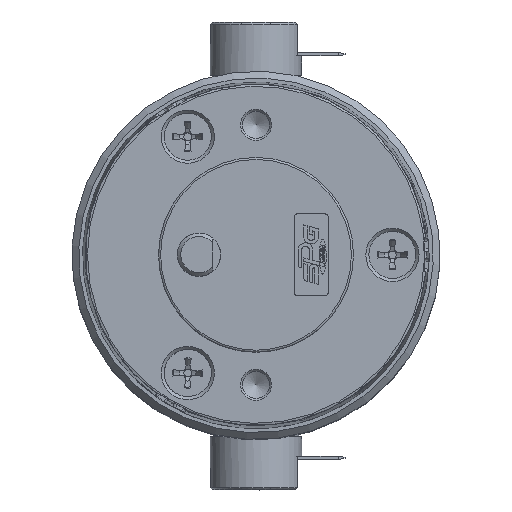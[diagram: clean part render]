
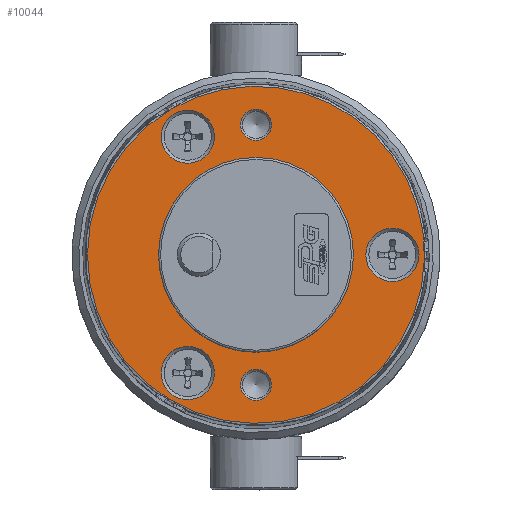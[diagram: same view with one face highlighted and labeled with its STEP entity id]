
A CAD part, top view. The second image highlights one B-rep face of the part: STEP entity #10044.
In plain terms, the highlighted planar face has unit normal (0, 0, 1).
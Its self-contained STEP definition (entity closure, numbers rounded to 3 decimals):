
#9958=CARTESIAN_POINT('',(0.,16.769,145.254));
#9959=VERTEX_POINT('',#9958);
#9960=CARTESIAN_POINT('',(0.,19.05,145.254));
#9961=DIRECTION('',(0.0,0.0,1.0));
#9962=DIRECTION('',(0.0,1.0,0.0));
#9963=AXIS2_PLACEMENT_3D('',#9960,#9961,#9962);
#9964=CIRCLE('',#9963,2.281);
#9965=EDGE_CURVE('',#9959,#9959,#9964,.T.);
#9970=CARTESIAN_POINT('',(0.,0.,145.254));
#9971=DIRECTION('',(0.0,0.0,-1.0));
#9972=DIRECTION('',(1.0,0.0,0.0));
#9973=AXIS2_PLACEMENT_3D('',#9970,#9971,#9972);
#9974=PLANE('',#9973);
#9975=CARTESIAN_POINT('',(-12.352,21.394,145.254));
#9976=VERTEX_POINT('',#9975);
#9977=CARTESIAN_POINT('',(0.,0.,145.254));
#9978=DIRECTION('',(0.,0.,-1.0));
#9979=DIRECTION('',(0.5,-0.866,0.));
#9980=AXIS2_PLACEMENT_3D('',#9977,#9978,#9979);
#9981=CIRCLE('',#9980,24.704);
#9982=EDGE_CURVE('',#9976,#9976,#9981,.T.);
#9983=ORIENTED_EDGE('',*,*,#9982,.F.);
#9984=EDGE_LOOP('',(#9983));
#9985=FACE_OUTER_BOUND('',#9984,.T.);
#9986=CARTESIAN_POINT('',(0.,-21.331,145.254));
#9987=VERTEX_POINT('',#9986);
#9988=CARTESIAN_POINT('',(0.,-19.05,145.254));
#9989=DIRECTION('',(0.0,0.0,1.0));
#9990=DIRECTION('',(0.0,1.0,0.0));
#9991=AXIS2_PLACEMENT_3D('',#9988,#9989,#9990);
#9992=CIRCLE('',#9991,2.281);
#9993=EDGE_CURVE('',#9987,#9987,#9992,.T.);
#9994=ORIENTED_EDGE('',*,*,#9993,.F.);
#9995=EDGE_LOOP('',(#9994));
#9996=FACE_BOUND('',#9995,.T.);
#9997=CARTESIAN_POINT('',(0.,-14.288,145.254));
#9998=VERTEX_POINT('',#9997);
#9999=CARTESIAN_POINT('',(0.,0.,145.254));
#10000=DIRECTION('',(0.0,0.0,-1.0));
#10001=DIRECTION('',(0.0,1.0,0.0));
#10002=AXIS2_PLACEMENT_3D('',#9999,#10000,#10001);
#10003=CIRCLE('',#10002,14.287);
#10004=EDGE_CURVE('',#9998,#9998,#10003,.T.);
#10005=ORIENTED_EDGE('',*,*,#10004,.T.);
#10006=EDGE_LOOP('',(#10005));
#10007=FACE_BOUND('',#10006,.T.);
#10008=CARTESIAN_POINT('',(23.9,0.,145.254));
#10009=VERTEX_POINT('',#10008);
#10010=CARTESIAN_POINT('',(20.,0.,145.254));
#10011=DIRECTION('',(0.0,0.0,-1.0));
#10012=DIRECTION('',(1.0,0.0,0.0));
#10013=AXIS2_PLACEMENT_3D('',#10010,#10011,#10012);
#10014=CIRCLE('',#10013,3.9);
#10015=EDGE_CURVE('',#10009,#10009,#10014,.T.);
#10016=ORIENTED_EDGE('',*,*,#10015,.T.);
#10017=EDGE_LOOP('',(#10016));
#10018=FACE_BOUND('',#10017,.T.);
#10019=CARTESIAN_POINT('',(-11.95,20.698,145.254));
#10020=VERTEX_POINT('',#10019);
#10021=CARTESIAN_POINT('',(-10.,17.321,145.254));
#10022=DIRECTION('',(0.,0.,-1.0));
#10023=DIRECTION('',(-0.5,0.866,0.));
#10024=AXIS2_PLACEMENT_3D('',#10021,#10022,#10023);
#10025=CIRCLE('',#10024,3.9);
#10026=EDGE_CURVE('',#10020,#10020,#10025,.T.);
#10027=ORIENTED_EDGE('',*,*,#10026,.T.);
#10028=EDGE_LOOP('',(#10027));
#10029=FACE_BOUND('',#10028,.T.);
#10030=CARTESIAN_POINT('',(-11.95,-20.698,145.254));
#10031=VERTEX_POINT('',#10030);
#10032=CARTESIAN_POINT('',(-10.,-17.321,145.254));
#10033=DIRECTION('',(0.,0.,-1.0));
#10034=DIRECTION('',(-0.5,-0.866,0.));
#10035=AXIS2_PLACEMENT_3D('',#10032,#10033,#10034);
#10036=CIRCLE('',#10035,3.9);
#10037=EDGE_CURVE('',#10031,#10031,#10036,.T.);
#10038=ORIENTED_EDGE('',*,*,#10037,.T.);
#10039=EDGE_LOOP('',(#10038));
#10040=FACE_BOUND('',#10039,.T.);
#10041=ORIENTED_EDGE('',*,*,#9965,.F.);
#10042=EDGE_LOOP('',(#10041));
#10043=FACE_BOUND('',#10042,.T.);
#10044=ADVANCED_FACE('',(#9985,#9996,#10007,#10018,#10029,#10040,#10043),#9974,.F.);
